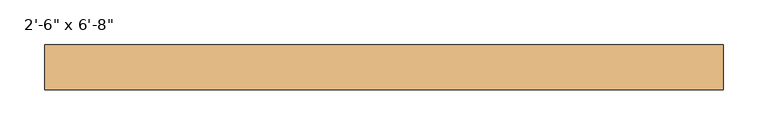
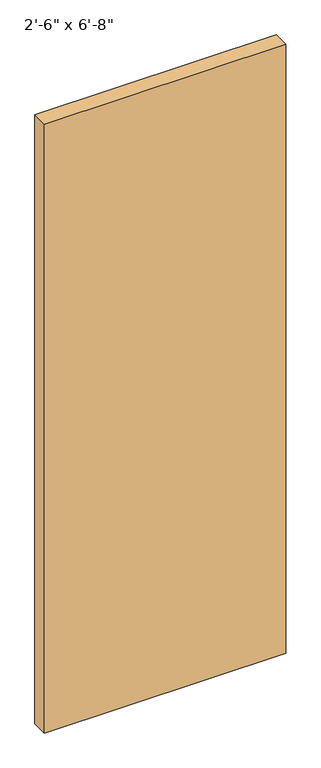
"""IFC4 building model written with IfcOpenShell, lengths in millimetres: door geometry."""

from ifc_helpers import new_model, si_unit, origin, origin_with_axes, place, context, project, spatial, polyline, outline, extrude, source, transform, mapped, element, save


def door_662d1a84(model_context):
    return source(origin(), model_context, "Body", "SweptSolid", [
        extrude(outline(polyline([(381.0, -25.2), (381.0, -76.2), (-381.0, -76.2), (-381.0, -25.2), (381.0, -25.2)])), origin_with_axes(), (0.0, 0.0, 1.0), 2032.0),
    ])


if __name__ == "__main__":
    model = new_model("IFC4")
    model_context = context("Model", 3, world=origin())
    ifc_project = project(units=[si_unit("LENGTHUNIT", "METRE", prefix="MILLI")], contexts=[model_context])
    site = spatial("IfcSite", under=ifc_project)
    building = spatial("IfcBuilding", under=site)
    placement = place(None, origin())
    door_shape = door_662d1a84(model_context)
    element("IfcDoor", 1, ObjectType="Planitar - Single Door_Flush Panel : 2'-6\" x 6'-8\"", at=placement, inside=building, context=model_context, shape_type="MappedRepresentation", body=[
        mapped(door_shape, transform((0.0, 0.0, 0.0), x_axis=(1.0, 0.0, 0.0), y_axis=(0.0, 1.0, 0.0), z_axis=(0.0, 0.0, 1.0))),
    ])
    save(model, "model.ifc")
